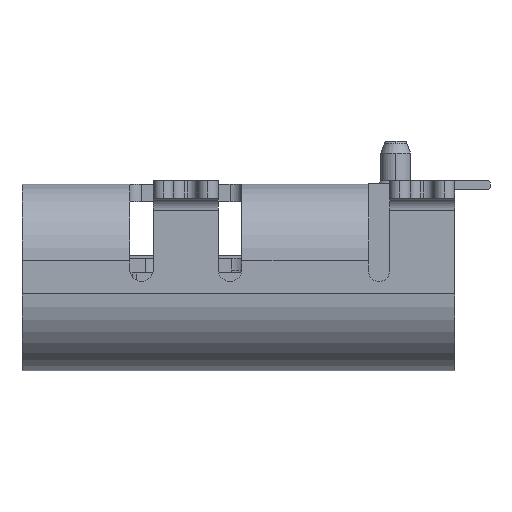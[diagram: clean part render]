
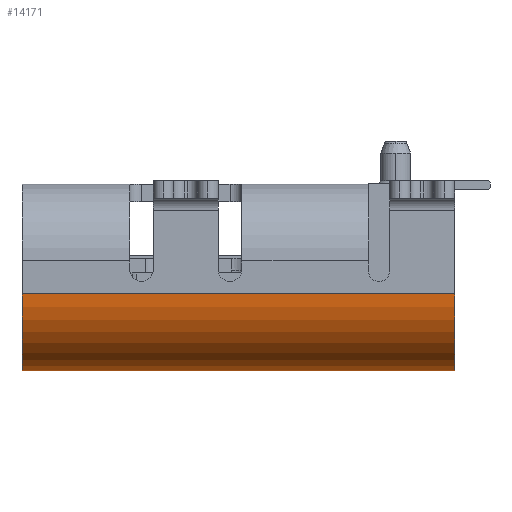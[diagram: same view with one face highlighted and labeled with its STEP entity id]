
A CAD part, front view. The second image highlights one B-rep face of the part: STEP entity #14171.
In plain terms, the highlighted cylindrical face has radius 1.3 mm (diameter 2.6 mm), a partial arc.
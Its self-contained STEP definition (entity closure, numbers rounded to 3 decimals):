
#228 = CARTESIAN_POINT ( 'NONE',  ( -4.47, 0.28, -1.5 ) ) ;
#2915 = CARTESIAN_POINT ( 'NONE',  ( -4.47, 0.28, 5.82 ) ) ;
#2973 = EDGE_CURVE ( 'NONE', #8552, #17929, #8312, .T. ) ;
#4521 = CIRCLE ( 'NONE', #5444, 1.3 ) ;
#5064 = DIRECTION ( 'NONE',  ( 1., 0., 0. ) ) ;
#5137 = DIRECTION ( 'NONE',  ( 1., 0., 0. ) ) ;
#5444 = AXIS2_PLACEMENT_3D ( 'NONE', #24809, #15779, #5137 ) ;
#6766 = CARTESIAN_POINT ( 'NONE',  ( -3.17, 1.58, 5.82 ) ) ;
#7250 = LINE ( 'NONE', #228, #9595 ) ;
#8312 = LINE ( 'NONE', #17200, #15862 ) ;
#8552 = VERTEX_POINT ( 'NONE', #9412 ) ;
#8753 = EDGE_LOOP ( 'NONE', ( #12875, #14661, #15459, #22574 ) ) ;
#9412 = CARTESIAN_POINT ( 'NONE',  ( -3.17, 1.58, -1.5 ) ) ;
#9541 = AXIS2_PLACEMENT_3D ( 'NONE', #27608, #28170, #27746 ) ;
#9595 = VECTOR ( 'NONE', #11279, 1000. ) ;
#10303 = VERTEX_POINT ( 'NONE', #2915 ) ;
#11279 = DIRECTION ( 'NONE',  ( 0., 0., 1. ) ) ;
#12875 = ORIENTED_EDGE ( 'NONE', *, *, #24440, .T. ) ;
#13639 = CARTESIAN_POINT ( 'NONE',  ( -4.47, 0.28, -1.5 ) ) ;
#14171 = ADVANCED_FACE ( 'NONE', ( #18863 ), #19426, .T. ) ;
#14661 = ORIENTED_EDGE ( 'NONE', *, *, #15651, .F. ) ;
#15459 = ORIENTED_EDGE ( 'NONE', *, *, #2973, .F. ) ;
#15651 = EDGE_CURVE ( 'NONE', #17929, #10303, #26150, .T. ) ;
#15779 = DIRECTION ( 'NONE',  ( 0., 0., 1. ) ) ;
#15862 = VECTOR ( 'NONE', #18188, 1000. ) ;
#16126 = CARTESIAN_POINT ( 'NONE',  ( -3.17, 0.28, 5.82 ) ) ;
#17200 = CARTESIAN_POINT ( 'NONE',  ( -3.17, 1.58, -1.8 ) ) ;
#17929 = VERTEX_POINT ( 'NONE', #6766 ) ;
#18188 = DIRECTION ( 'NONE',  ( 0., 0., 1. ) ) ;
#18863 = FACE_OUTER_BOUND ( 'NONE', #8753, .T. ) ;
#19426 = CYLINDRICAL_SURFACE ( 'NONE', #9541, 1.3 ) ;
#20848 = DIRECTION ( 'NONE',  ( 0., 0., 1. ) ) ;
#22018 = AXIS2_PLACEMENT_3D ( 'NONE', #16126, #20848, #5064 ) ;
#22574 = ORIENTED_EDGE ( 'NONE', *, *, #22957, .T. ) ;
#22957 = EDGE_CURVE ( 'NONE', #8552, #27606, #4521, .T. ) ;
#24440 = EDGE_CURVE ( 'NONE', #27606, #10303, #7250, .T. ) ;
#24809 = CARTESIAN_POINT ( 'NONE',  ( -3.17, 0.28, -1.5 ) ) ;
#26150 = CIRCLE ( 'NONE', #22018, 1.3 ) ;
#27606 = VERTEX_POINT ( 'NONE', #13639 ) ;
#27608 = CARTESIAN_POINT ( 'NONE',  ( -3.17, 0.28, -1.5 ) ) ;
#27746 = DIRECTION ( 'NONE',  ( 1., 0., 0. ) ) ;
#28170 = DIRECTION ( 'NONE',  ( 0., 0., 1. ) ) ;
